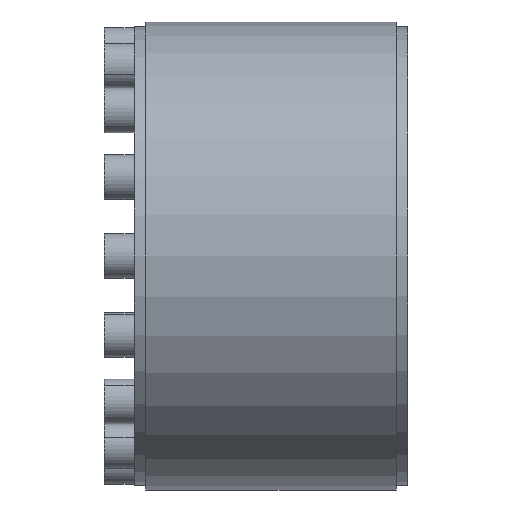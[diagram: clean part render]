
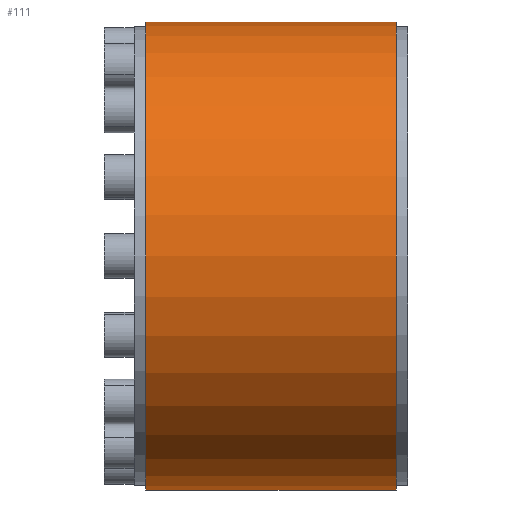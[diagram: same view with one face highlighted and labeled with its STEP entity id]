
A CAD part, front view. The second image highlights one B-rep face of the part: STEP entity #111.
In plain terms, the highlighted cylindrical face has radius 125 mm (diameter 250 mm), a partial arc.
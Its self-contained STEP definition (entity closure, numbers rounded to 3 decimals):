
#107 = EDGE_CURVE ( 'NONE', #3107, #3100, #3624, .T. ) ;
#111 = ADVANCED_FACE ( 'NONE', ( #3620 ), #3619, .T. ) ;
#112 = EDGE_LOOP ( 'NONE', ( #113, #114, #115, #116 ) ) ;
#113 = ORIENTED_EDGE ( 'NONE', *, *, #3283, .F. ) ;
#114 = ORIENTED_EDGE ( 'NONE', *, *, #107, .T. ) ;
#115 = ORIENTED_EDGE ( 'NONE', *, *, #3153, .T. ) ;
#116 = ORIENTED_EDGE ( 'NONE', *, *, #117, .F. ) ;
#117 = EDGE_CURVE ( 'NONE', #3193, #3187, #3618, .T. ) ;
#3100 = VERTEX_POINT ( 'NONE', #8429 ) ;
#3107 = VERTEX_POINT ( 'NONE', #8481 ) ;
#3153 = EDGE_CURVE ( 'NONE', #3100, #3187, #8526, .T. ) ;
#3187 = VERTEX_POINT ( 'NONE', #8585 ) ;
#3193 = VERTEX_POINT ( 'NONE', #8638 ) ;
#3283 = EDGE_CURVE ( 'NONE', #3107, #3193, #8796, .T. ) ;
#3613 = AXIS2_PLACEMENT_3D ( 'NONE', #3677, #3676, #3675 ) ;
#3614 = DIRECTION ( 'NONE',  ( 0., 0., 1. ) ) ;
#3615 = DIRECTION ( 'NONE',  ( -1., 0., 0. ) ) ;
#3616 = CARTESIAN_POINT ( 'NONE',  ( 0., 0., 0. ) ) ;
#3617 = AXIS2_PLACEMENT_3D ( 'NONE', #3616, #3615, #3614 ) ;
#3618 = CIRCLE ( 'NONE', #3613, 125. ) ;
#3619 = CYLINDRICAL_SURFACE ( 'NONE', #3617, 125. ) ;
#3620 = FACE_OUTER_BOUND ( 'NONE', #112, .T. ) ;
#3621 = DIRECTION ( 'NONE',  ( 0., 0., 1. ) ) ;
#3622 = DIRECTION ( 'NONE',  ( -1., 0., 0. ) ) ;
#3623 = AXIS2_PLACEMENT_3D ( 'NONE', #3629, #3622, #3621 ) ;
#3624 = CIRCLE ( 'NONE', #3623, 125. ) ;
#3629 = CARTESIAN_POINT ( 'NONE',  ( 140., 0., 0. ) ) ;
#3675 = DIRECTION ( 'NONE',  ( 0., 0., 1. ) ) ;
#3676 = DIRECTION ( 'NONE',  ( -1., 0., 0. ) ) ;
#3677 = CARTESIAN_POINT ( 'NONE',  ( 6., 0., 0. ) ) ;
#8429 = CARTESIAN_POINT ( 'NONE',  ( 140., 0., 125. ) ) ;
#8481 = CARTESIAN_POINT ( 'NONE',  ( 140., 0., -125. ) ) ;
#8523 = DIRECTION ( 'NONE',  ( -1., 0., 0. ) ) ;
#8524 = VECTOR ( 'NONE', #8523, 1000. ) ;
#8525 = CARTESIAN_POINT ( 'NONE',  ( 0., 0., 125. ) ) ;
#8526 = LINE ( 'NONE', #8525, #8524 ) ;
#8585 = CARTESIAN_POINT ( 'NONE',  ( 6., 0., 125. ) ) ;
#8638 = CARTESIAN_POINT ( 'NONE',  ( 6., 0., -125. ) ) ;
#8789 = DIRECTION ( 'NONE',  ( -1., 0., 0. ) ) ;
#8790 = VECTOR ( 'NONE', #8789, 1000. ) ;
#8791 = CARTESIAN_POINT ( 'NONE',  ( 0., 0., -125. ) ) ;
#8796 = LINE ( 'NONE', #8791, #8790 ) ;
